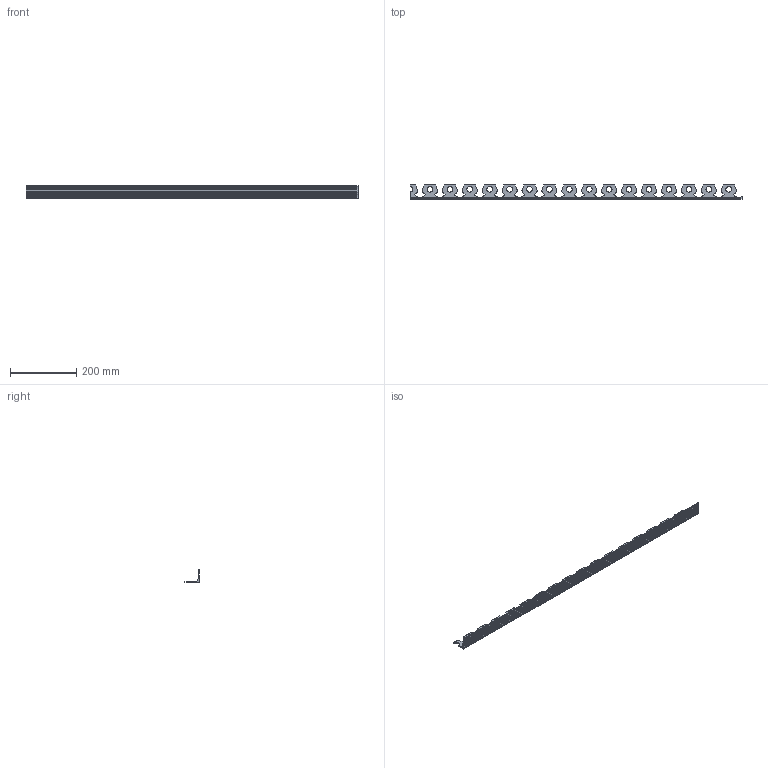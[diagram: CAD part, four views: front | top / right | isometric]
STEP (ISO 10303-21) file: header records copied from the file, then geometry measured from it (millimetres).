
FILE_DESCRIPTION(('STEP AP214'), '1');
FILE_NAME('Áîðäþð_38õ44 L=1ì', '', ('UNSPECIFIED'), ('UNSPECIFIED'), 'ASCON STEP Converter 1.3', 'ASCON Math Kernel', '');
FILE_SCHEMA(('AUTOMOTIVE_DESIGN { 1 0 10303 214 3 1 1}'));
Length unit declared in the file: millimetre
Bounding box: 1000 x 44.2 x 38 mm (x, y, z)
Volume: 198069.5 mm3; surface area: 135566.1 mm2
Topology: 1 solids, 1 shells, 258 faces, 768 edges, 512 vertices
Faces by surface type: plane 155, cylinder 103
Full cylindrical faces by diameter (mm): 17 x16
Entity records: 10685 total; most frequent: CARTESIAN_POINT 1970, ORIENTED_EDGE 1504, DIRECTION 1210, EDGE_CURVE 752, LINE 546, VECTOR 546, VERTEX_POINT 512, AXIS2_PLACEMENT_3D 332
